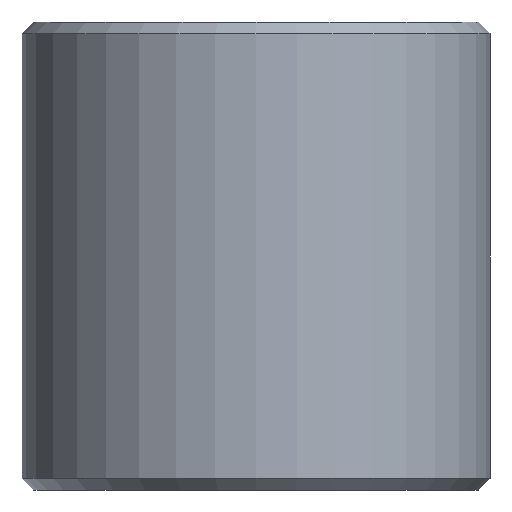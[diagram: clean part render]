
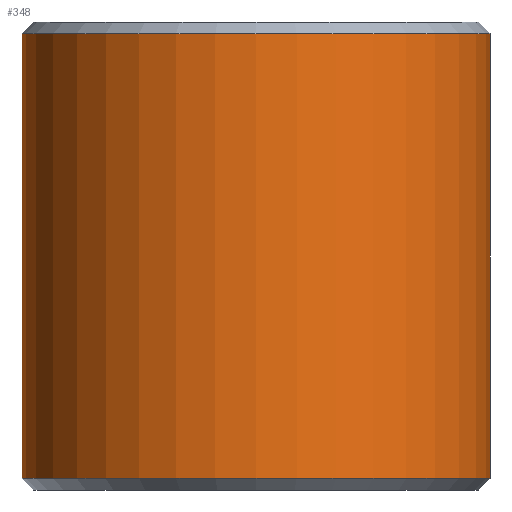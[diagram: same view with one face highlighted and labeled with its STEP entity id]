
A CAD part, front view. The second image highlights one B-rep face of the part: STEP entity #348.
In plain terms, the highlighted cylindrical face has radius 30 mm (diameter 60 mm), a partial arc.
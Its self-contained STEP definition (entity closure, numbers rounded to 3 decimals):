
#5 = CIRCLE ( 'NONE', #225, 30. ) ;
#21 = VERTEX_POINT ( 'NONE', #141 ) ;
#35 = VECTOR ( 'NONE', #244, 1000. ) ;
#54 = DIRECTION ( 'NONE',  ( 0., 0., 1. ) ) ;
#57 = DIRECTION ( 'NONE',  ( -1., 0., 0. ) ) ;
#86 = EDGE_CURVE ( 'NONE', #21, #196, #344, .T. ) ;
#87 = CYLINDRICAL_SURFACE ( 'NONE', #428, 30. ) ;
#89 = ORIENTED_EDGE ( 'NONE', *, *, #86, .F. ) ;
#107 = CARTESIAN_POINT ( 'NONE',  ( -30., 0., 30. ) ) ;
#116 = CARTESIAN_POINT ( 'NONE',  ( -30., 0., -28.5 ) ) ;
#141 = CARTESIAN_POINT ( 'NONE',  ( 30., 0., 28.5 ) ) ;
#150 = AXIS2_PLACEMENT_3D ( 'NONE', #255, #54, #154 ) ;
#151 = FACE_OUTER_BOUND ( 'NONE', #163, .T. ) ;
#154 = DIRECTION ( 'NONE',  ( 1., 0., 0. ) ) ;
#163 = EDGE_LOOP ( 'NONE', ( #89, #192, #268, #380 ) ) ;
#182 = EDGE_CURVE ( 'NONE', #199, #371, #206, .T. ) ;
#185 = CIRCLE ( 'NONE', #150, 30. ) ;
#190 = DIRECTION ( 'NONE',  ( 0., 0., -1. ) ) ;
#192 = ORIENTED_EDGE ( 'NONE', *, *, #259, .T. ) ;
#193 = CARTESIAN_POINT ( 'NONE',  ( 0., 0., 30. ) ) ;
#196 = VERTEX_POINT ( 'NONE', #434 ) ;
#199 = VERTEX_POINT ( 'NONE', #396 ) ;
#206 = LINE ( 'NONE', #107, #35 ) ;
#225 = AXIS2_PLACEMENT_3D ( 'NONE', #365, #230, #302 ) ;
#230 = DIRECTION ( 'NONE',  ( 0., 0., -1. ) ) ;
#244 = DIRECTION ( 'NONE',  ( 0., 0., -1. ) ) ;
#255 = CARTESIAN_POINT ( 'NONE',  ( 0., 0., -28.5 ) ) ;
#259 = EDGE_CURVE ( 'NONE', #21, #199, #5, .T. ) ;
#268 = ORIENTED_EDGE ( 'NONE', *, *, #182, .T. ) ;
#302 = DIRECTION ( 'NONE',  ( 1., 0., 0. ) ) ;
#305 = DIRECTION ( 'NONE',  ( 0., 0., -1. ) ) ;
#344 = LINE ( 'NONE', #376, #352 ) ;
#348 = ADVANCED_FACE ( 'NONE', ( #151 ), #87, .T. ) ;
#352 = VECTOR ( 'NONE', #305, 1000. ) ;
#365 = CARTESIAN_POINT ( 'NONE',  ( 0., 0., 28.5 ) ) ;
#371 = VERTEX_POINT ( 'NONE', #116 ) ;
#376 = CARTESIAN_POINT ( 'NONE',  ( 30., 0., 30. ) ) ;
#380 = ORIENTED_EDGE ( 'NONE', *, *, #423, .T. ) ;
#396 = CARTESIAN_POINT ( 'NONE',  ( -30., 0., 28.5 ) ) ;
#423 = EDGE_CURVE ( 'NONE', #371, #196, #185, .T. ) ;
#428 = AXIS2_PLACEMENT_3D ( 'NONE', #193, #190, #57 ) ;
#434 = CARTESIAN_POINT ( 'NONE',  ( 30., 0., -28.5 ) ) ;
